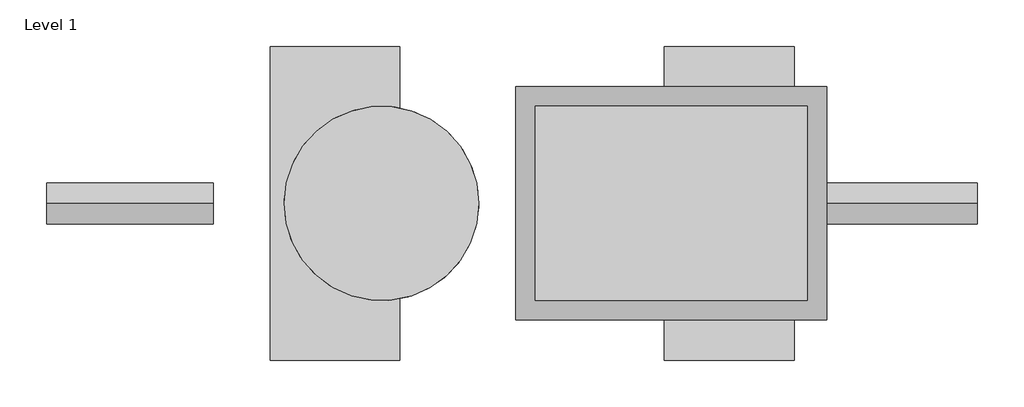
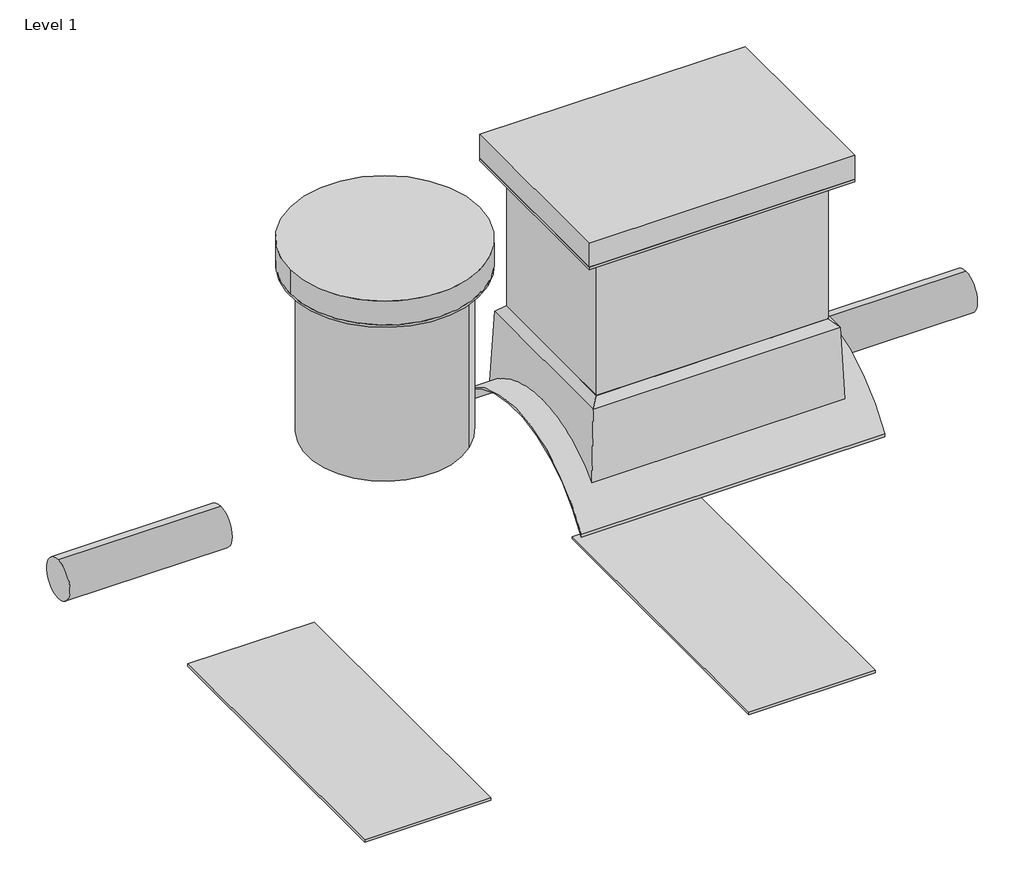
# One storey, incomplete: 9 proxies.
"""IFC4 building model written with IfcOpenShell, lengths in millimetres."""

from ifc_helpers import new_model, si_unit, origin, place, context, project, spatial, transform, mapped, element, save
from components import generic_models_1de174ea, generic_models_2a316d6d, generic_models_d9ee4f9d, generic_models_efd85da4, generic_models_571ec50f, proxy_600mm_riser_a8db4c80, iso_4065_pipe_dn160x1_3xs63_1000_2405643b, iso_4065_pipe_dn160x1_3xs63_3000_ee6f1e2f

model = new_model("IFC4")

# Units and contexts
model_context = context("Model", 3, world=origin())
ifc_project = project(units=[si_unit("LENGTHUNIT", "METRE", prefix="MILLI")], contexts=[model_context])

# Site, building, storey
site = spatial("IfcSite", under=ifc_project)
building = spatial("IfcBuilding", under=site)
storey = spatial("IfcBuildingStorey", under=building, Name="Level 1", Elevation=0.0)

# Proxies
placement = place(None, origin())
generic_models_shape = generic_models_1de174ea(model_context)
element("IfcBuildingElementProxy", 1, Name="SU.HS.FOOT.1050", ObjectType="SU.HS.FOOT.1050", at=placement, inside=storey, context=model_context, shape_type="MappedRepresentation", body=[
    mapped(generic_models_shape, transform((2509.7233162, 0.0, -1792.6517773), x_axis=(0.0, 1.0, 0.0), y_axis=(0.0, 0.0, 1.0), z_axis=(1.0, 0.0, 0.0))),
])
element("IfcBuildingElementProxy", 2, Name="SU.HS.FOOT.1050", ObjectType="SU.HS.FOOT.1050", at=placement, inside=storey, context=model_context, shape_type="MappedRepresentation", body=[
    mapped(generic_models_shape, transform((4030.2768685, 0.0, -1792.6517773), x_axis=(0.0, 1.0, 0.0), y_axis=(0.0, 0.0, 1.0), z_axis=(1.0, 0.0, 0.0))),
])
generic_models_2_shape = generic_models_2a316d6d(model_context)
element("IfcBuildingElementProxy", 3, Name="600mm Cass D Cover-01", ObjectType="600mm Cass D Cover-01", at=placement, inside=storey, context=model_context, shape_type="MappedRepresentation", body=[
    mapped(generic_models_2_shape, transform((2840.0194946, 0.0, 103.3482227), x_axis=(1.0, 0.0, 0.0), y_axis=(0.0, 0.0, 1.0), z_axis=(0.0, -1.0, 0.0))),
])
generic_models_3_shape = generic_models_d9ee4f9d(model_context)
element("IfcBuildingElementProxy", 4, Name="600x900 - 600mm Manway Riser", ObjectType="600x900 - 600mm Manway Riser", at=placement, inside=storey, context=model_context, shape_type="MappedRepresentation", body=[
    mapped(generic_models_3_shape, transform((3957.0101162, 0.0, 103.3482227), x_axis=(0.0, 1.0, 0.0), y_axis=(0.0, 0.0, 1.0), z_axis=(1.0, 0.0, 0.0))),
])
generic_models_4_shape = generic_models_efd85da4(model_context)
element("IfcBuildingElementProxy", 5, Name="600x900mm Manway Cover-D", ObjectType="600x900mm Manway Cover-D", at=placement, inside=storey, context=model_context, shape_type="MappedRepresentation", body=[
    mapped(generic_models_4_shape, transform((3957.0101162, 0.0, 103.3482227), x_axis=(0.0, 1.0, 0.0), y_axis=(0.0, 0.0, 1.0), z_axis=(1.0, 0.0, 0.0))),
])
generic_models_5_shape = generic_models_571ec50f(model_context)
element("IfcBuildingElementProxy", 6, Name="SU.MRADAPTOR.1050.600Lx900W", ObjectType="SU.MRADAPTOR.1050.600Lx900W", at=placement, inside=storey, context=model_context, shape_type="MappedRepresentation", body=[
    mapped(generic_models_5_shape, transform((3957.0101162, 0.0, -703.6517773), x_axis=(0.0, -1.0, 0.0), y_axis=(0.0, 0.0, 1.0), z_axis=(-1.0, 0.0, 0.0))),
])
proxy_600mm_riser_shape = proxy_600mm_riser_a8db4c80(model_context)
element("IfcBuildingElementProxy", 7, Name="600mm Riser", ObjectType="600mm Riser", at=placement, inside=storey, context=model_context, shape_type="MappedRepresentation", body=[
    mapped(proxy_600mm_riser_shape, transform((2840.0194946, 0.0, -2396.6517773), x_axis=(-0.6425486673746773, 0.7662448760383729, 0.0), y_axis=(0.0, 0.0, 0.9999999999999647), z_axis=(0.7662448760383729, 0.6425486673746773, 0.0))),
])
iso_4065_pipe_dn160x1_3xs63_1000_shape = iso_4065_pipe_dn160x1_3xs63_1000_2405643b(model_context)
element("IfcBuildingElementProxy", 8, Name="ISO 4065 Pipe DN160x1.3xS63 - 1000", ObjectType="ISO 4065 Pipe DN160x1.3xS63 - 1000", at=placement, inside=storey, context=model_context, shape_type="MappedRepresentation", body=[
    mapped(iso_4065_pipe_dn160x1_3xs63_1000_shape, transform((5359.6767829, 0.0, -818.6517773), x_axis=(-1.0, 0.0, 0.0), y_axis=(0.0, 0.0, -1.0), z_axis=(0.0, -1.0, 0.0))),
])
iso_4065_pipe_dn160x1_3xs63_3000_shape = iso_4065_pipe_dn160x1_3xs63_3000_ee6f1e2f(model_context)
element("IfcBuildingElementProxy", 9, Name="ISO 4065 Pipe DN160x1.3xS63 - 3000", ObjectType="ISO 4065 Pipe DN160x1.3xS63 - 3000", at=placement, inside=storey, context=model_context, shape_type="MappedRepresentation", body=[
    mapped(iso_4065_pipe_dn160x1_3xs63_3000_shape, transform((2190.0000924, 0.0, -768.6517773), x_axis=(-1.0, 0.0, 0.0), y_axis=(0.0, 0.0, -1.0), z_axis=(0.0, -1.0, 0.0))),
])

save(model, "model.ifc")
